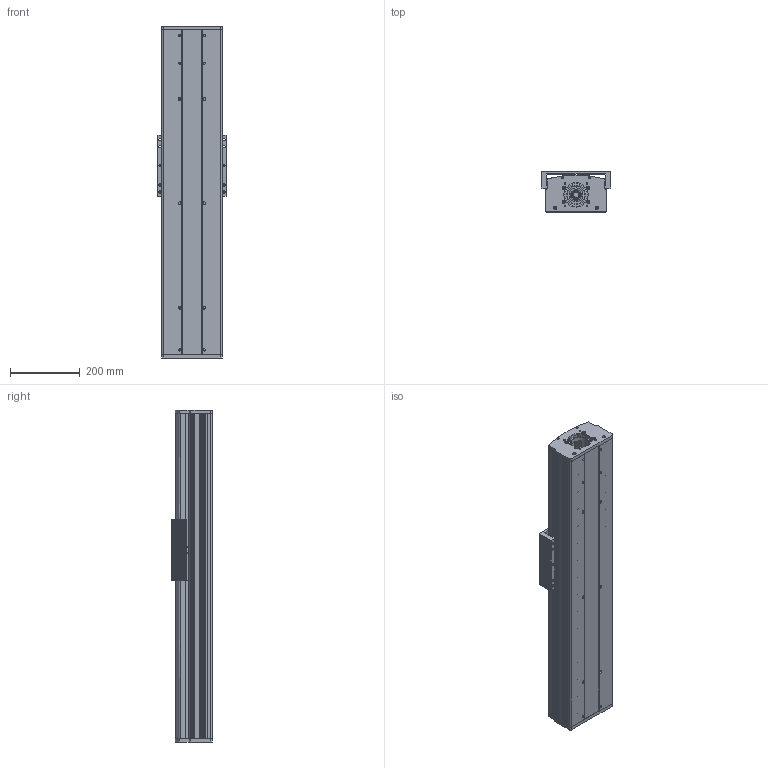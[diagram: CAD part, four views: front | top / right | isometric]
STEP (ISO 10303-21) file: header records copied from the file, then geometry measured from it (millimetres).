
FILE_DESCRIPTION (( 'STEP AP203' ), '1' );
FILE_NAME ('CF175-2-P600.STEP', '2016-02-23T08:23:58', ( 'Sky123.Org' ), ( 'Sky123.Org' ), 'SwSTEP 2.0', 'SolidWorks 2015', '' );
FILE_SCHEMA (( 'CONFIG_CONTROL_DESIGN' ));
Length unit declared in the file: millimetre
Products named in the file (13): 175-2梓袧嘐隅釱; X1-SFS2525-1185; 175-2侜督80萇儂釱; 175-2耜啣; CF175-2-P600; 175-2盓傅釱; CF175-2蹟譫釱; Y1-CF175-2-P1200-1547裔啣; Y1-CF175-2-P1200-1547臏倰第; Y1-HGR20-1500絳寢; CF-HGH20CA賑輸; CF175-2賑雄啣; SFU2505-4
Assembly tree (16 placements, depth 2):
  CF175-2-P600
    CF-HGH20CA賑輸  x4
    SFU2505-4
    X1-SFS2525-1185
    175-2耜啣
    175-2盓傅釱
    CF175-2蹟譫釱
    Y1-CF175-2-P1200-1547裔啣
    Y1-CF175-2-P1200-1547臏倰第
    Y1-HGR20-1500絳寢  x2
    CF175-2賑雄啣
    175-2梓袧嘐隅釱
    175-2侜督80萇儂釱
Bounding box: 200 x 116.8 x 955 mm (x, y, z)
Volume: 8005437.7 mm3; surface area: 2169722.3 mm2
Topology: 22 solids, 22 shells, 1432 faces, 3786 edges, 2508 vertices
Faces by surface type: cylinder 751, plane 657, cone 20, bspline 4
Entity records: 42528 total; most frequent: CARTESIAN_POINT 11282, DIRECTION 6466, ORIENTED_EDGE 6030, EDGE_CURVE 3015, AXIS2_PLACEMENT_3D 2421, VERTEX_POINT 1996, LINE 1624, VECTOR 1624
